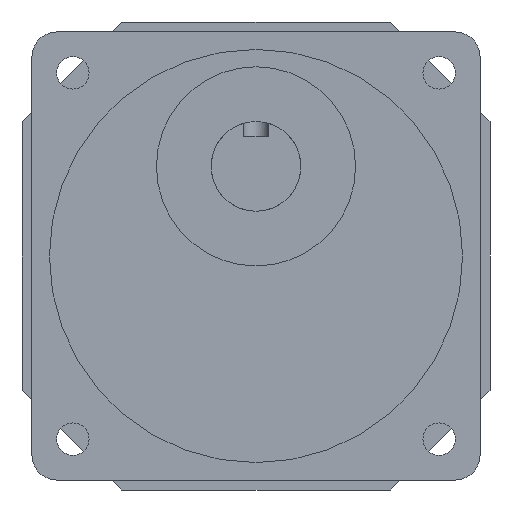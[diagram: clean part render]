
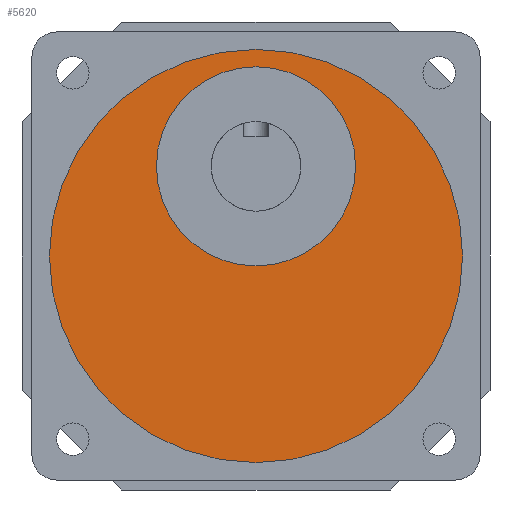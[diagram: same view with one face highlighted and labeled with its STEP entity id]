
A CAD part, front view. The second image highlights one B-rep face of the part: STEP entity #5620.
In plain terms, the highlighted planar face has unit normal (0, -1, 0).
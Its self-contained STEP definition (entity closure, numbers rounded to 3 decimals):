
#217 = CARTESIAN_POINT ( 'NONE',  ( 45., -83., 45. ) ) ;
#277 = AXIS2_PLACEMENT_3D ( 'NONE', #3239, #4114, #2783 ) ;
#342 = CIRCLE ( 'NONE', #277, 41.5 ) ;
#349 = EDGE_CURVE ( 'NONE', #3654, #1886, #342, .T. ) ;
#358 = DIRECTION ( 'NONE',  ( 0., 0., -1. ) ) ;
#509 = ORIENTED_EDGE ( 'NONE', *, *, #349, .T. ) ;
#537 = CARTESIAN_POINT ( 'NONE',  ( 45., -83., 83. ) ) ;
#632 = DIRECTION ( 'NONE',  ( 0., -1., 0. ) ) ;
#991 = VERTEX_POINT ( 'NONE', #537 ) ;
#1219 = CARTESIAN_POINT ( 'NONE',  ( 45., -83., 63. ) ) ;
#1268 = CIRCLE ( 'NONE', #3695, 41.5 ) ;
#1384 = AXIS2_PLACEMENT_3D ( 'NONE', #217, #632, #4203 ) ;
#1619 = PLANE ( 'NONE',  #1384 ) ;
#1659 = DIRECTION ( 'NONE',  ( 0., -1., 0. ) ) ;
#1684 = FACE_OUTER_BOUND ( 'NONE', #5062, .T. ) ;
#1862 = CARTESIAN_POINT ( 'NONE',  ( 45., -83., 86.5 ) ) ;
#1886 = VERTEX_POINT ( 'NONE', #1862 ) ;
#1938 = DIRECTION ( 'NONE',  ( 0., -1., 0. ) ) ;
#2065 = CARTESIAN_POINT ( 'NONE',  ( 45., -83., 45. ) ) ;
#2178 = VERTEX_POINT ( 'NONE', #3409 ) ;
#2276 = AXIS2_PLACEMENT_3D ( 'NONE', #1219, #1659, #358 ) ;
#2383 = CIRCLE ( 'NONE', #2276, 20. ) ;
#2417 = DIRECTION ( 'NONE',  ( 0., 0., -1. ) ) ;
#2442 = FACE_BOUND ( 'NONE', #5588, .T. ) ;
#2694 = EDGE_CURVE ( 'NONE', #991, #2178, #4706, .T. ) ;
#2783 = DIRECTION ( 'NONE',  ( 0., 0., -1. ) ) ;
#3239 = CARTESIAN_POINT ( 'NONE',  ( 45., -83., 45. ) ) ;
#3406 = ORIENTED_EDGE ( 'NONE', *, *, #5692, .F. ) ;
#3409 = CARTESIAN_POINT ( 'NONE',  ( 45., -83., 43. ) ) ;
#3654 = VERTEX_POINT ( 'NONE', #4928 ) ;
#3659 = ORIENTED_EDGE ( 'NONE', *, *, #2694, .F. ) ;
#3695 = AXIS2_PLACEMENT_3D ( 'NONE', #2065, #1938, #2417 ) ;
#4114 = DIRECTION ( 'NONE',  ( 0., -1., 0. ) ) ;
#4203 = DIRECTION ( 'NONE',  ( 0., 0., -1. ) ) ;
#4413 = ORIENTED_EDGE ( 'NONE', *, *, #5563, .T. ) ;
#4499 = AXIS2_PLACEMENT_3D ( 'NONE', #5015, #5466, #4586 ) ;
#4586 = DIRECTION ( 'NONE',  ( 0., 0., -1. ) ) ;
#4706 = CIRCLE ( 'NONE', #4499, 20. ) ;
#4928 = CARTESIAN_POINT ( 'NONE',  ( 45., -83., 3.5 ) ) ;
#5015 = CARTESIAN_POINT ( 'NONE',  ( 45., -83., 63. ) ) ;
#5062 = EDGE_LOOP ( 'NONE', ( #509, #4413 ) ) ;
#5466 = DIRECTION ( 'NONE',  ( 0., -1., 0. ) ) ;
#5563 = EDGE_CURVE ( 'NONE', #1886, #3654, #1268, .T. ) ;
#5588 = EDGE_LOOP ( 'NONE', ( #3659, #3406 ) ) ;
#5620 = ADVANCED_FACE ( 'NONE', ( #2442, #1684 ), #1619, .T. ) ;
#5692 = EDGE_CURVE ( 'NONE', #2178, #991, #2383, .T. ) ;
